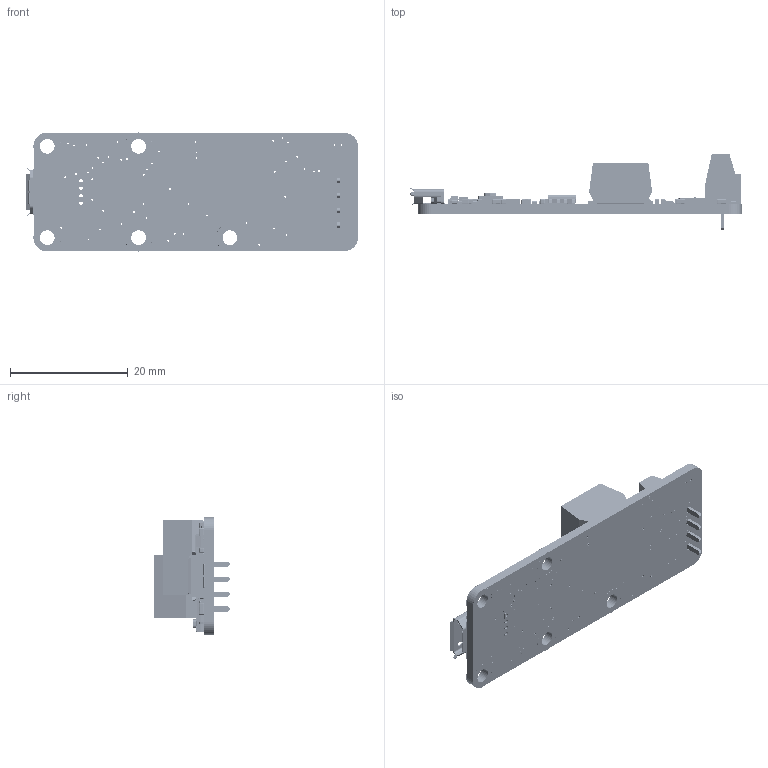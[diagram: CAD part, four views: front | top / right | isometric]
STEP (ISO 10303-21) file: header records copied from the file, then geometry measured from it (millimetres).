
FILE_DESCRIPTION (( 'STEP AP214' ), '1' );
FILE_NAME ('yoctoPT100_2.STEP', '2013-10-07T06:02:00', ( 'martinm' ), ( '' ), 'SwSTEP 2.0', 'SolidWorks 2008', '' );
FILE_SCHEMA (( 'AUTOMOTIVE_DESIGN' ));
Length unit declared in the file: millimetre
Products named in the file (36): yoctoPT100_2OutLine; ADS1115IDGST; R1S-3.33.3-R; C0603C106M9PACTU; GRM188F51E104ZA01D; GRM188R61C225KE15D; C2012X7R2E472KT5; GRM188R60J105KA01D; GRM219F51C105ZA01D; SST25VF080B-80-4I-QAE; Si8600AC-B-IS; PCA9554ABS; 1725672; TEST_POINT; CRCW060310K0JNEB; WSLP0603R1000FEA; RK73H1JTTD1501F; CRCW0603100KJNEA; 301-4.7K-RC; RN731JTTD1201B25; CRCW06033K00FKEA; CRCW0603100RJNEB; RG2012L-331-L-T05; RK73H1JTTD4702F; CRCW06031M00JNEB; CRCW06030000Z0EA; MCP1703T-3302E_CB; TLV70030DDCT; KMR211NGLFS; SIA923EDJ-T1-GE3; SIA914DJ-T1-GE3; PIC24FJ64GB002-I_ML; ZX62-B-5PA(11); ASMT-TBBM-NP902; FAN4010IL6X_F113; yoctoPT100_2
Assembly tree (55 placements, depth 2):
  TEST_POINT
  yoctoPT100_2
    GRM188F51E104ZA01D  x11
    Si8600AC-B-IS
    301-4.7K-RC  x4
    GRM219F51C105ZA01D
    CRCW06031M00JNEB
    KMR211NGLFS
    PIC24FJ64GB002-I_ML
    yoctoPT100_2OutLine
    ADS1115IDGST  x2
    C2012X7R2E472KT5
    CRCW0603100KJNEA
    RK73H1JTTD4702F  x4
    CRCW0603100RJNEB
    FAN4010IL6X_F113
    GRM188R60J105KA01D  x3
    ZX62-B-5PA(11)
    GRM188R61C225KE15D
    SST25VF080B-80-4I-QAE
    RG2012L-331-L-T05
    ASMT-TBBM-NP902
    SIA923EDJ-T1-GE3
    C0603C106M9PACTU
    WSLP0603R1000FEA
    RN731JTTD1201B25
    MCP1703T-3302E_CB
    CRCW06033K00FKEA
    CRCW06030000Z0EA  x3
    SIA914DJ-T1-GE3
    R1S-3.33.3-R
    1725672
    CRCW060310K0JNEB
    PCA9554ABS
    RK73H1JTTD1501F
    TLV70030DDCT
Bounding box: 56.35 x 12.9 x 20.2 mm (x, y, z)
Volume: 3247 mm3; surface area: 4716.5 mm2
Topology: 71 solids, 71 shells, 8310 faces, 21528 edges, 13994 vertices
Faces by surface type: plane 5222, cylinder 1829, bspline 1108, sphere 144, torus 7
Entity records: 333634 total; most frequent: CARTESIAN_POINT 96282, ORIENTED_EDGE 36370, DIRECTION 31328, EDGE_CURVE 18185, LINE 13174, VECTOR 13174, VERTEX_POINT 12016, AXIS2_PLACEMENT_3D 9077
